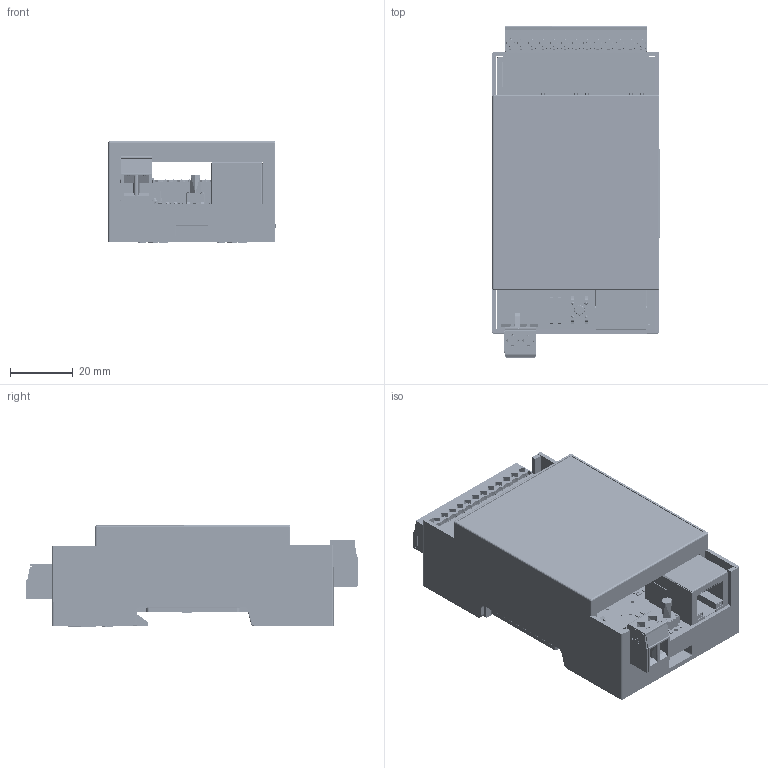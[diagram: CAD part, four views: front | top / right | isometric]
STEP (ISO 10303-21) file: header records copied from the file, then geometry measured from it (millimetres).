
FILE_DESCRIPTION(/* description */ ('Open CASCADE Model'),/* implementation_level */ '2;1');
FILE_NAME(/* name */ 'DM00215-0.stp',/* time_stamp */ '2025-02-28T15:15:31+01:00',/* author */ ('zambolin'),/* organization */ ('Open CASCADE'),/* preprocessor_version */ 'ST-DEVELOPER v20',/* originating_system */ 'Autodesk Inventor 2024',/* authorisation */ 'Unknown');
FILE_SCHEMA (('AUTOMOTIVE_DESIGN { 1 0 10303 214 3 1 1 }'));
Products named in the file (353): CS05561; Board; Open CASCADE STEP translator 7.5 1.1.1; R63; R62; TP17; TP9; U1; 6985730560; Extruded; TP29; R46; D13; C54; U5; TP33; TP31; T1; RJ45-01-J0011D01BNL; User Library-RJ45-01-J0011D01BNL_body_1; User Library-RJ45-01-J0011D01BNL_Shield_1; C74; X1; ASDK; 6229613392; Extruded_1; U4; QFN-32-5x5 - EQ; U3; 6961021200; Body; PinsArrayLR; PinsArrayTB; U2; SW2; Sw DIP2 LP; R100; R99; R98; R97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
Assembly tree (603 placements, depth 6):
  CS05561
    Board
      Open CASCADE STEP translator 7.5 1.1.1
    R63
      0402 SMD Resistor
    R62
      0402 SMD Resistor
    TP17
      6789362096
        Cylinder
      6789362256
        Cylinder_1
    TP9
      7457367120
        Cylinder_2
      7457367360
        Cylinder_3
    U1
      6985730560
        Extruded
    TP29
      6789362096
        Cylinder
      6789362256
        Cylinder_1
    R46
      0603 SMD Resistor
    D13
      Ussot23-3
    C54
      1210x_capacitor
    U5
      Ussot23-3
    TP33
      6789362096
        Cylinder
      6789362256
        Cylinder_1
    TP31
      6789362096
        Cylinder
      6789362256
        Cylinder_1
    T1
      RJ45-01-J0011D01BNL
        User Library-RJ45-01-J0011D01BNL_body_1
        User Library-RJ45-01-J0011D01BNL_Shield_1
    C74
      0603 SMD Capacitor
    X1
      ASDK
      6229613392
        Extruded_1
    U4
      QFN-32-5x5 - EQ
    U3
      6961021200
        Body
        PinsArrayLR
        PinsArrayTB
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Bounding box: 53.47 x 106.1 x 32.53 mm (x, y, z)
Volume: 47127.4 mm3; surface area: 69453 mm2
Topology: 781 solids, 813 shells, 23727 faces, 60044 edges, 38698 vertices
Faces by surface type: plane 14072, bspline 6426, cylinder 2431, sphere 522, torus 169, cone 107
Full cylindrical faces by diameter (mm): 0.072 x1, 0.122 x2, 0.144 x10, 0.18 x3, 0.197 x1, 0.225 x1, 0.3 x1, 0.314 x2, 0.38 x1, 0.5 x2, 0.6 x10, 0.707 x1, 1.2 x13, 1.4 x11, 1.53 x2, 1.7 x21, 1.8 x13, 2 x1, 2.8 x13, 3 x15, 3.5 x1, 4 x2, 4.32 x1, 4.35 x1, 5 x1, 8 x2
Entity records: 262635 total; most frequent: CARTESIAN_POINT 70921, ORIENTED_EDGE 37821, DIRECTION 35617, EDGE_CURVE 18912, LINE 14899, VECTOR 14899, VERTEX_POINT 12220, AXIS2_PLACEMENT_3D 10359
